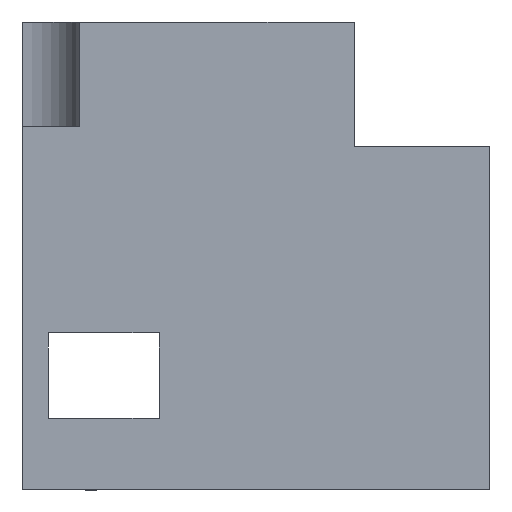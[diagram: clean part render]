
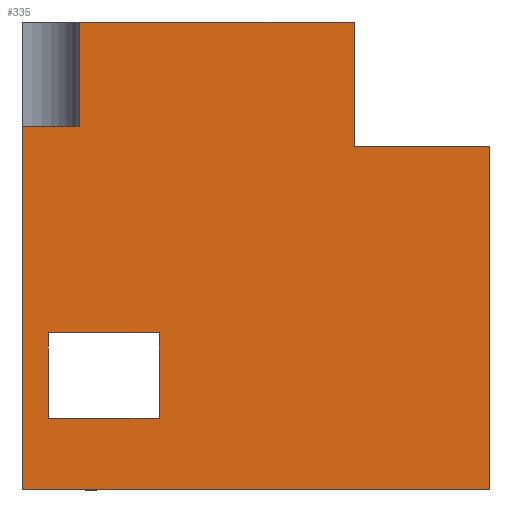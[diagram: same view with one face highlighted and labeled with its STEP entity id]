
A CAD part, front view. The second image highlights one B-rep face of the part: STEP entity #335.
In plain terms, the highlighted planar face has unit normal (0, -1, 0).
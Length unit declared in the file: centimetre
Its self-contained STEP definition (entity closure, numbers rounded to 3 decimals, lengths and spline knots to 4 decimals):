
#2 = CARTESIAN_POINT ( 'NONE',  ( 1000., 0., 1000. ) ) ;
#23 = VECTOR ( 'NONE', #800, 100. ) ;
#35 = EDGE_LOOP ( 'NONE', ( #975, #288, #47, #399, #347, #509, #637, #824 ) ) ;
#47 = ORIENTED_EDGE ( 'NONE', *, *, #501, .F. ) ;
#61 = VERTEX_POINT ( 'NONE', #415 ) ;
#69 = PLANE ( 'NONE',  #171 ) ;
#79 = CARTESIAN_POINT ( 'NONE',  ( 123.5356, 0., 777.6911 ) ) ;
#85 = EDGE_CURVE ( 'NONE', #274, #869, #480, .T. ) ;
#97 = DIRECTION ( 'NONE',  ( 0., 0., 1. ) ) ;
#100 = CARTESIAN_POINT ( 'NONE',  ( 56.2495, 0., 153.2932 ) ) ;
#126 = EDGE_LOOP ( 'NONE', ( #667, #952, #433, #734 ) ) ;
#149 = EDGE_CURVE ( 'NONE', #869, #61, #945, .T. ) ;
#155 = DIRECTION ( 'NONE',  ( 0., 0., -1. ) ) ;
#159 = CARTESIAN_POINT ( 'NONE',  ( 0., 0., 1000. ) ) ;
#161 = DIRECTION ( 'NONE',  ( 0., 0., 1. ) ) ;
#170 = DIRECTION ( 'NONE',  ( 0., 0., -1. ) ) ;
#171 = AXIS2_PLACEMENT_3D ( 'NONE', #686, #906, #161 ) ;
#176 = DIRECTION ( 'NONE',  ( 0., 0., -1. ) ) ;
#182 = VERTEX_POINT ( 'NONE', #955 ) ;
#197 = DIRECTION ( 'NONE',  ( 1., 0., 0. ) ) ;
#225 = LINE ( 'NONE', #531, #627 ) ;
#243 = CARTESIAN_POINT ( 'NONE',  ( 709.5837, 0., 733.208 ) ) ;
#249 = VECTOR ( 'NONE', #97, 100. ) ;
#263 = DIRECTION ( 'NONE',  ( -1., 0., 0. ) ) ;
#265 = LINE ( 'NONE', #776, #249 ) ;
#274 = VERTEX_POINT ( 'NONE', #890 ) ;
#288 = ORIENTED_EDGE ( 'NONE', *, *, #956, .T. ) ;
#330 = EDGE_CURVE ( 'NONE', #61, #182, #225, .T. ) ;
#335 = ADVANCED_FACE ( 'NONE', ( #840, #606 ), #69, .F. ) ;
#346 = VERTEX_POINT ( 'NONE', #681 ) ;
#347 = ORIENTED_EDGE ( 'NONE', *, *, #848, .T. ) ;
#362 = EDGE_CURVE ( 'NONE', #346, #526, #534, .T. ) ;
#366 = EDGE_CURVE ( 'NONE', #346, #579, #752, .T. ) ;
#369 = LINE ( 'NONE', #159, #457 ) ;
#376 = DIRECTION ( 'NONE',  ( 1., 0., 0. ) ) ;
#385 = VECTOR ( 'NONE', #687, 100. ) ;
#395 = VERTEX_POINT ( 'NONE', #775 ) ;
#399 = ORIENTED_EDGE ( 'NONE', *, *, #746, .T. ) ;
#408 = VERTEX_POINT ( 'NONE', #844 ) ;
#415 = CARTESIAN_POINT ( 'NONE',  ( 56.2495, 0., 335.5868 ) ) ;
#418 = VERTEX_POINT ( 'NONE', #699 ) ;
#433 = ORIENTED_EDGE ( 'NONE', *, *, #330, .T. ) ;
#444 = EDGE_CURVE ( 'NONE', #182, #274, #618, .T. ) ;
#457 = VECTOR ( 'NONE', #974, 100. ) ;
#464 = CARTESIAN_POINT ( 'NONE',  ( 293.1825, 0., 153.2932 ) ) ;
#468 = CARTESIAN_POINT ( 'NONE',  ( 0., 0., 777.6911 ) ) ;
#472 = VECTOR ( 'NONE', #263, 100. ) ;
#480 = LINE ( 'NONE', #871, #472 ) ;
#494 = VERTEX_POINT ( 'NONE', #753 ) ;
#500 = CARTESIAN_POINT ( 'NONE',  ( 0., 0., 0. ) ) ;
#501 = EDGE_CURVE ( 'NONE', #874, #418, #544, .T. ) ;
#509 = ORIENTED_EDGE ( 'NONE', *, *, #366, .F. ) ;
#526 = VERTEX_POINT ( 'NONE', #243 ) ;
#531 = CARTESIAN_POINT ( 'NONE',  ( 56.2495, 0., 335.5868 ) ) ;
#534 = LINE ( 'NONE', #834, #755 ) ;
#544 = LINE ( 'NONE', #468, #385 ) ;
#571 = EDGE_CURVE ( 'NONE', #494, #395, #369, .T. ) ;
#579 = VERTEX_POINT ( 'NONE', #832 ) ;
#582 = CARTESIAN_POINT ( 'NONE',  ( 0., 0., 777.6911 ) ) ;
#606 = FACE_OUTER_BOUND ( 'NONE', #35, .T. ) ;
#618 = LINE ( 'NONE', #464, #786 ) ;
#627 = VECTOR ( 'NONE', #376, 100. ) ;
#637 = ORIENTED_EDGE ( 'NONE', *, *, #362, .T. ) ;
#667 = ORIENTED_EDGE ( 'NONE', *, *, #85, .T. ) ;
#681 = CARTESIAN_POINT ( 'NONE',  ( 1000., 0., 733.208 ) ) ;
#686 = CARTESIAN_POINT ( 'NONE',  ( 0., 0., 1000. ) ) ;
#687 = DIRECTION ( 'NONE',  ( 1., 0., 0. ) ) ;
#699 = CARTESIAN_POINT ( 'NONE',  ( 123.5356, 0., 777.6911 ) ) ;
#724 = VECTOR ( 'NONE', #155, 100. ) ;
#734 = ORIENTED_EDGE ( 'NONE', *, *, #444, .T. ) ;
#742 = CARTESIAN_POINT ( 'NONE',  ( 56.2495, 0., 153.2932 ) ) ;
#746 = EDGE_CURVE ( 'NONE', #874, #408, #862, .T. ) ;
#752 = LINE ( 'NONE', #2, #724 ) ;
#753 = CARTESIAN_POINT ( 'NONE',  ( 123.5356, 0., 1000. ) ) ;
#755 = VECTOR ( 'NONE', #969, 100. ) ;
#763 = LINE ( 'NONE', #79, #938 ) ;
#775 = CARTESIAN_POINT ( 'NONE',  ( 709.5837, 0., 1000. ) ) ;
#776 = CARTESIAN_POINT ( 'NONE',  ( 709.5837, 0., 733.208 ) ) ;
#784 = CARTESIAN_POINT ( 'NONE',  ( 0., 0., 1000. ) ) ;
#786 = VECTOR ( 'NONE', #170, 100. ) ;
#800 = DIRECTION ( 'NONE',  ( 0., 0., 1. ) ) ;
#808 = EDGE_CURVE ( 'NONE', #526, #395, #265, .T. ) ;
#823 = VECTOR ( 'NONE', #197, 100. ) ;
#824 = ORIENTED_EDGE ( 'NONE', *, *, #808, .T. ) ;
#832 = CARTESIAN_POINT ( 'NONE',  ( 1000., 0., 0. ) ) ;
#834 = CARTESIAN_POINT ( 'NONE',  ( 709.5837, 0., 733.208 ) ) ;
#838 = VECTOR ( 'NONE', #176, 100. ) ;
#840 = FACE_BOUND ( 'NONE', #126, .T. ) ;
#844 = CARTESIAN_POINT ( 'NONE',  ( 0., 0., 0. ) ) ;
#848 = EDGE_CURVE ( 'NONE', #408, #579, #951, .T. ) ;
#862 = LINE ( 'NONE', #784, #838 ) ;
#869 = VERTEX_POINT ( 'NONE', #742 ) ;
#871 = CARTESIAN_POINT ( 'NONE',  ( 56.2495, 0., 153.2932 ) ) ;
#874 = VERTEX_POINT ( 'NONE', #582 ) ;
#890 = CARTESIAN_POINT ( 'NONE',  ( 293.1825, 0., 153.2932 ) ) ;
#903 = DIRECTION ( 'NONE',  ( 0., 0., -1. ) ) ;
#906 = DIRECTION ( 'NONE',  ( 0., 1., 0. ) ) ;
#938 = VECTOR ( 'NONE', #903, 100. ) ;
#945 = LINE ( 'NONE', #100, #23 ) ;
#951 = LINE ( 'NONE', #500, #823 ) ;
#952 = ORIENTED_EDGE ( 'NONE', *, *, #149, .T. ) ;
#955 = CARTESIAN_POINT ( 'NONE',  ( 293.1825, 0., 335.5868 ) ) ;
#956 = EDGE_CURVE ( 'NONE', #494, #418, #763, .T. ) ;
#969 = DIRECTION ( 'NONE',  ( -1., 0., 0. ) ) ;
#974 = DIRECTION ( 'NONE',  ( 1., 0., 0. ) ) ;
#975 = ORIENTED_EDGE ( 'NONE', *, *, #571, .F. ) ;
